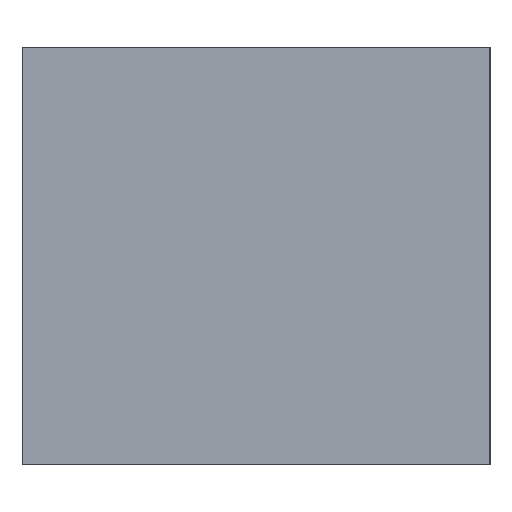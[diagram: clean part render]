
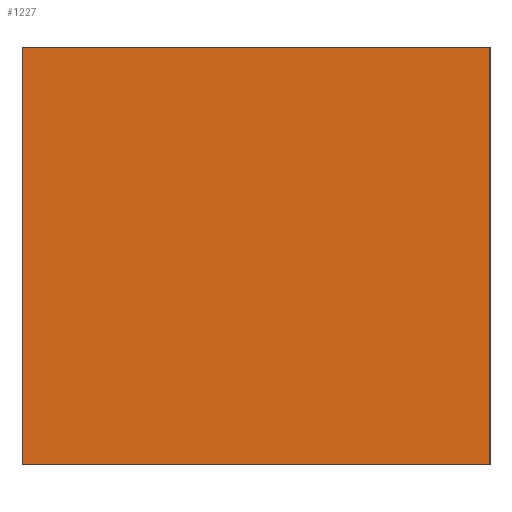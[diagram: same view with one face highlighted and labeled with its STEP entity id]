
A CAD part, left-side view. The second image highlights one B-rep face of the part: STEP entity #1227.
In plain terms, the highlighted planar face has unit normal (-1, 0, 0).
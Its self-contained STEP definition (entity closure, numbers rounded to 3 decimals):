
#41=DIRECTION('',(0.,0.,-1.));
#42=VECTOR('',#41,50.);
#43=CARTESIAN_POINT('',(-38.,972.,0.));
#44=LINE('',#43,#42);
#111=DIRECTION('',(0.,0.,1.));
#112=VECTOR('',#111,50.);
#113=CARTESIAN_POINT('',(-38.,1028.,-50.));
#114=LINE('',#113,#112);
#221=DIRECTION('',(0.,1.,0.));
#222=VECTOR('',#221,56.);
#223=CARTESIAN_POINT('',(-38.,972.,0.));
#224=LINE('',#223,#222);
#225=DIRECTION('',(0.,-1.,0.));
#226=VECTOR('',#225,56.);
#227=CARTESIAN_POINT('',(-38.,1028.,-50.));
#228=LINE('',#227,#226);
#863=CARTESIAN_POINT('',(-38.,1028.,0.));
#865=VERTEX_POINT('',#863);
#895=CARTESIAN_POINT('',(-38.,972.,0.));
#896=VERTEX_POINT('',#895);
#938=CARTESIAN_POINT('',(-38.,1028.,-50.));
#939=VERTEX_POINT('',#938);
#946=CARTESIAN_POINT('',(-38.,972.,-50.));
#947=VERTEX_POINT('',#946);
#1215=CARTESIAN_POINT('',(-38.,1000.,-50.));
#1216=DIRECTION('',(-1.,0.,0.));
#1217=DIRECTION('',(0.,0.,1.));
#1218=AXIS2_PLACEMENT_3D('',#1215,#1216,#1217);
#1219=PLANE('',#1218);
#1220=ORIENTED_EDGE('',*,*,#1128,.T.);
#1221=ORIENTED_EDGE('',*,*,#1180,.F.);
#1222=ORIENTED_EDGE('',*,*,#1013,.T.);
#1224=ORIENTED_EDGE('',*,*,#1223,.F.);
#1225=EDGE_LOOP('',(#1220,#1221,#1222,#1224));
#1226=FACE_OUTER_BOUND('',#1225,.F.);
#1013=EDGE_CURVE('',#896,#947,#44,.T.);
#1128=EDGE_CURVE('',#939,#865,#114,.T.);
#1180=EDGE_CURVE('',#896,#865,#224,.T.);
#1223=EDGE_CURVE('',#939,#947,#228,.T.);
#1227=ADVANCED_FACE('',(#1226),#1219,.T.);
